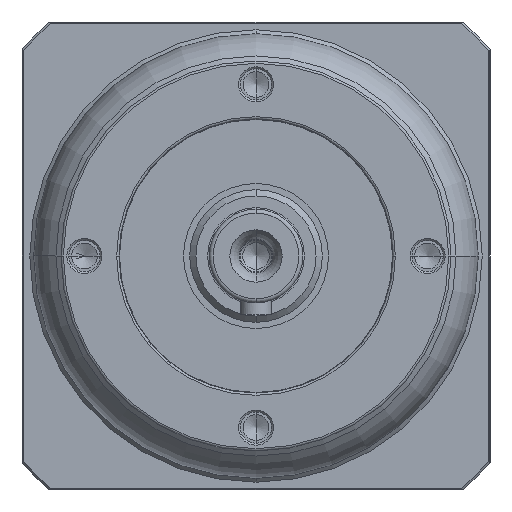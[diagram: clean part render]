
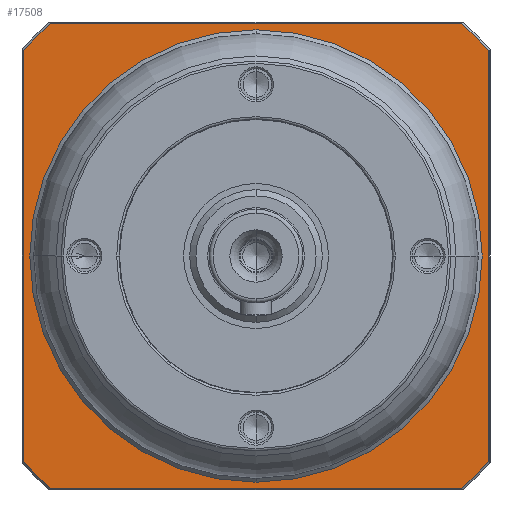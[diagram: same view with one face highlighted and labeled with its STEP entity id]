
A CAD part, left-side view. The second image highlights one B-rep face of the part: STEP entity #17508.
In plain terms, the highlighted planar face has unit normal (-1, 0, 0) as drawn and (0, 0, -1) by its records, which use the part's own axes.
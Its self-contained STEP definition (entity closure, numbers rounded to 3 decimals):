
#16382=CARTESIAN_POINT('',(0.,0.,
2.));
#16383=DIRECTION('',(0.,0.,-1.));
#16384=DIRECTION('',(0.,-1.,0.));
#16385=AXIS2_PLACEMENT_3D('',#16382,#16383,#16384);
#16387=CARTESIAN_POINT('',(0.,0.,
2.));
#16388=DIRECTION('',(0.,0.,-1.));
#16389=DIRECTION('',(0.,1.,0.));
#16390=AXIS2_PLACEMENT_3D('',#16387,#16388,#16389);
#16392=CARTESIAN_POINT('',(0.,0.,2.));
#16393=DIRECTION('',(0.,0.,1.));
#16394=DIRECTION('',(-0.749,-0.663,0.));
#16395=AXIS2_PLACEMENT_3D('',#16392,#16393,#16394);
#16397=DIRECTION('',(1.,0.,0.));
#16398=VECTOR('',#16397,52.764);
#16399=CARTESIAN_POINT('',(-26.382,-29.8,
2.));
#16400=LINE('',#16399,#16398);
#16401=CARTESIAN_POINT('',(0.,0.,2.));
#16402=DIRECTION('',(0.,0.,1.));
#16403=DIRECTION('',(0.663,-0.749,0.));
#16404=AXIS2_PLACEMENT_3D('',#16401,#16402,#16403);
#16406=DIRECTION('',(0.,1.,0.));
#16407=VECTOR('',#16406,52.764);
#16408=CARTESIAN_POINT('',(29.8,-26.382,
2.));
#16409=LINE('',#16408,#16407);
#16410=CARTESIAN_POINT('',(0.,0.,2.));
#16411=DIRECTION('',(0.,0.,1.));
#16412=DIRECTION('',(0.749,0.663,0.));
#16413=AXIS2_PLACEMENT_3D('',#16410,#16411,#16412);
#16415=DIRECTION('',(-1.,0.,0.));
#16416=VECTOR('',#16415,52.764);
#16417=CARTESIAN_POINT('',(26.382,29.8,2.));
#16418=LINE('',#16417,#16416);
#16419=CARTESIAN_POINT('',(0.,0.,2.));
#16420=DIRECTION('',(0.,0.,1.));
#16421=DIRECTION('',(-0.663,0.749,0.));
#16422=AXIS2_PLACEMENT_3D('',#16419,#16420,#16421);
#16424=DIRECTION('',(0.,-1.,0.));
#16425=VECTOR('',#16424,52.764);
#16426=CARTESIAN_POINT('',(-29.8,26.382,
2.));
#16427=LINE('',#16426,#16425);
#17163=CARTESIAN_POINT('',(0.,-29.,2.));
#17164=CARTESIAN_POINT('',(0.,29.,2.));
#17165=VERTEX_POINT('',#17163);
#17166=VERTEX_POINT('',#17164);
#17235=CARTESIAN_POINT('',(-29.8,-26.382,2.));
#17236=CARTESIAN_POINT('',(-26.382,-29.8,2.));
#17237=VERTEX_POINT('',#17235);
#17238=VERTEX_POINT('',#17236);
#17243=CARTESIAN_POINT('',(26.382,-29.8,
2.));
#17244=VERTEX_POINT('',#17243);
#17247=CARTESIAN_POINT('',(29.8,-26.382,2.));
#17248=VERTEX_POINT('',#17247);
#17251=CARTESIAN_POINT('',(29.8,26.382,2.));
#17252=VERTEX_POINT('',#17251);
#17255=CARTESIAN_POINT('',(26.382,29.8,2.));
#17256=VERTEX_POINT('',#17255);
#17259=CARTESIAN_POINT('',(-26.382,29.8,
2.));
#17260=VERTEX_POINT('',#17259);
#17265=CARTESIAN_POINT('',(-29.8,26.382,2.));
#17266=VERTEX_POINT('',#17265);
#17480=CARTESIAN_POINT('',(0.,0.,2.));
#17481=DIRECTION('',(0.,0.,1.));
#17482=DIRECTION('',(0.,1.,0.));
#17483=AXIS2_PLACEMENT_3D('',#17480,#17481,#17482);
#17484=PLANE('',#17483);
#17486=ORIENTED_EDGE('',*,*,#17485,.T.);
#17488=ORIENTED_EDGE('',*,*,#17487,.T.);
#17490=ORIENTED_EDGE('',*,*,#17489,.T.);
#17492=ORIENTED_EDGE('',*,*,#17491,.T.);
#17494=ORIENTED_EDGE('',*,*,#17493,.T.);
#17496=ORIENTED_EDGE('',*,*,#17495,.T.);
#17498=ORIENTED_EDGE('',*,*,#17497,.T.);
#17500=ORIENTED_EDGE('',*,*,#17499,.T.);
#17501=EDGE_LOOP('',(#17486,#17488,#17490,#17492,#17494,#17496,#17498,#17500));
#17502=FACE_OUTER_BOUND('',#17501,.F.);
#17504=ORIENTED_EDGE('',*,*,#17503,.T.);
#17505=ORIENTED_EDGE('',*,*,#17470,.T.);
#17506=EDGE_LOOP('',(#17504,#17505));
#17507=FACE_BOUND('',#17506,.F.);
#17508=ADVANCED_FACE('',(#17502,#17507),#17484,.F.);
#16386=CIRCLE('',#16385,29.);
#16391=CIRCLE('',#16390,29.);
#16396=CIRCLE('',#16395,39.8);
#16405=CIRCLE('',#16404,39.8);
#16414=CIRCLE('',#16413,39.8);
#16423=CIRCLE('',#16422,39.8);
#17470=EDGE_CURVE('',#17166,#17165,#16391,.T.);
#17485=EDGE_CURVE('',#17237,#17238,#16396,.T.);
#17487=EDGE_CURVE('',#17238,#17244,#16400,.T.);
#17489=EDGE_CURVE('',#17244,#17248,#16405,.T.);
#17491=EDGE_CURVE('',#17248,#17252,#16409,.T.);
#17493=EDGE_CURVE('',#17252,#17256,#16414,.T.);
#17495=EDGE_CURVE('',#17256,#17260,#16418,.T.);
#17497=EDGE_CURVE('',#17260,#17266,#16423,.T.);
#17499=EDGE_CURVE('',#17266,#17237,#16427,.T.);
#17503=EDGE_CURVE('',#17165,#17166,#16386,.T.);
